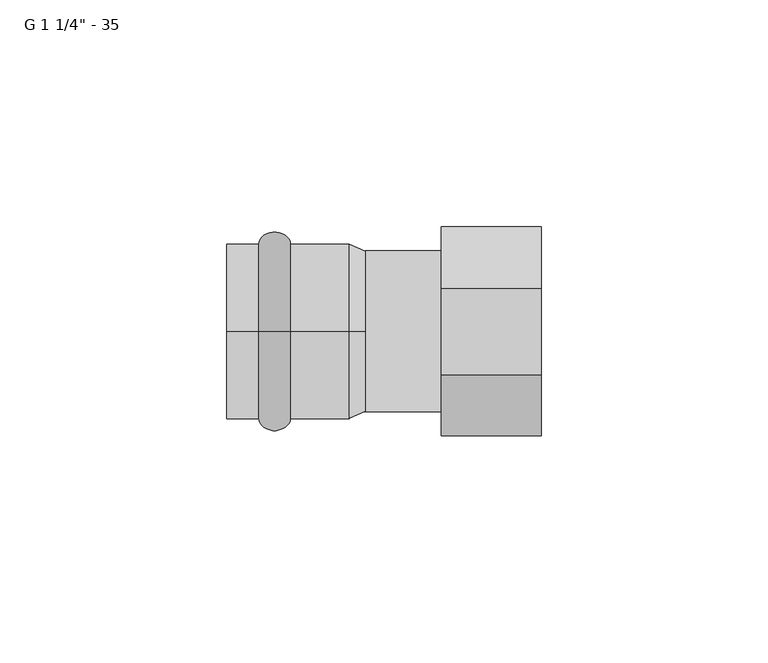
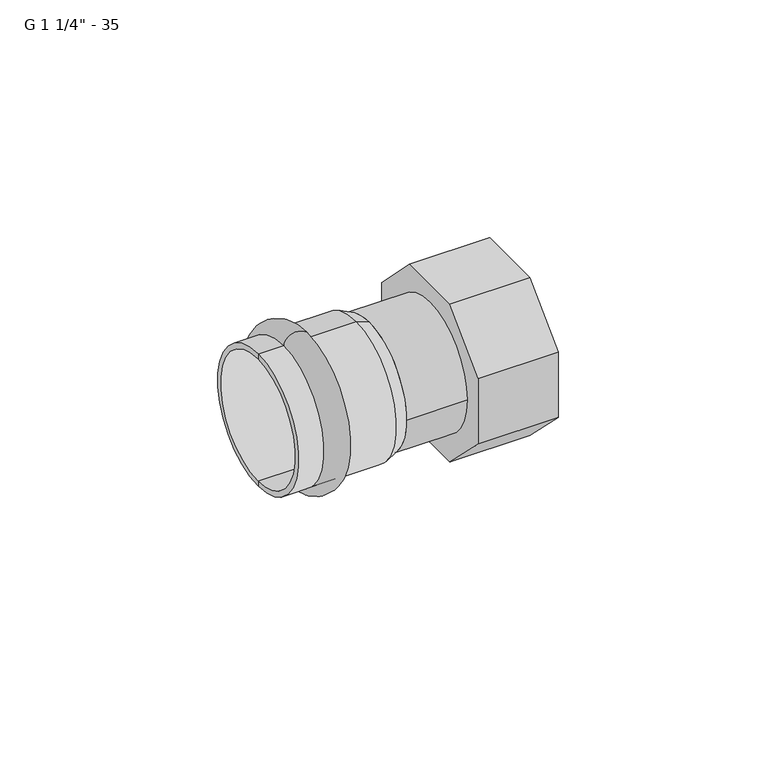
"""IFC4 building model written with IfcOpenShell, lengths in millimetres: pipe fitting geometry."""

from ifc_helpers import new_model, si_unit, point, frame, origin, origin_2d, place, context, project, spatial, polyline, circle_curve, ellipse_curve, trimmed, segment, composite_curve, outline, extrude, source, transform, mapped, element, save
from ifc_brep_helpers import plane_surface, cylinder_surface, revolved_surface, advanced_brep


def pipe_fitting_ef480b17(model_context):
    return source(origin(), model_context, "Body", "SolidModel", [
        advanced_brep(
        [(-20.0, 0.0, 19.25), (-20.0, 0.0, -19.25), (-13.0, 0.0, -19.25), (-13.0, 0.0, 19.25)],
        [
            (0, 1, circle_curve(frame((-20.0, 0.0, 0.0), z_axis=(-1.0, 0.0, 0.0), x_axis=(0.0, 0.0, -1.0)), 19.25)),
            (1, 2),
            (2, 3, circle_curve(frame((-13.0, 0.0, 0.0), z_axis=(1.0, 0.0, 0.0), x_axis=(0.0, 0.0, -1.0)), 19.25)),
            (3, 0),
            (1, 0, circle_curve(frame((-20.0, 0.0, 0.0), z_axis=(-1.0, 0.0, 0.0), x_axis=(0.0, 0.0, -1.0)), 19.25)),
            (3, 2, circle_curve(frame((-13.0, 0.0, 0.0), z_axis=(1.0, 0.0, 0.0), x_axis=(0.0, 0.0, -1.0)), 19.25)),
            (2, 1, ellipse_curve(frame((-16.5, 0.0, -19.25), z_axis=(0.0, 1.0, 0.0), x_axis=(-1.0, 0.0, 0.0)), 3.5, 2.75)),
            (0, 3, ellipse_curve(frame((-16.5, 0.0, 19.25), z_axis=(0.0, 1.0, 0.0), x_axis=(-1.0, 0.0, 0.0)), 3.5, 2.75)),
        ],
        [
            revolved_surface(polyline([(-13.0, 0.0, -19.25), (-20.0, 0.0, -19.25)]), (3.0, 0.0, 0.0), (1.0, 0.0, 0.0)),
            revolved_surface(trimmed(ellipse_curve(frame((-16.5, 0.0, -19.25), z_axis=(0.0, -1.0, 0.0), x_axis=(-1.0, 0.0, 0.0)), 3.5, 2.75), [point((-20.0, 0.0, -19.25))], [point((-13.0, 0.0, -19.25))], True, "CARTESIAN"), (3.0, 0.0, 0.0), (1.0, 0.0, 0.0)),
        ],
        [
            (0, [[1, 2, 3, 4]]),
            (0, [[5, -4, 6, -2]]),
            (1, [[-3, 7, -1, 8]]),
            (1, [[-6, -8, -5, -7]]),
        ],
    ),
        advanced_brep(
        [(3.5337785, 0.0, 17.75), (3.5337785, 0.0, -17.75), (0.0, 0.0, -19.25), (0.0, 0.0, 19.25), (-27.0, 0.0, 17.75), (-27.0, 0.0, -17.75), (-27.0, 0.0, 19.25), (-27.0, 0.0, -19.25)],
        [
            (0, 1, circle_curve(frame((3.5337785, 0.0, 0.0), z_axis=(-1.0, 0.0, 0.0), x_axis=(0.0, 0.0, -1.0)), 17.75)),
            (1, 2),
            (2, 3, circle_curve(frame((0.0, 0.0, 0.0), z_axis=(1.0, 0.0, 0.0), x_axis=(0.0, 0.0, -1.0)), 19.25)),
            (3, 0),
            (1, 0, circle_curve(frame((3.5337785, 0.0, 0.0), z_axis=(-1.0, 0.0, 0.0), x_axis=(0.0, 0.0, -1.0)), 17.75)),
            (3, 2, circle_curve(frame((0.0, 0.0, 0.0), z_axis=(1.0, 0.0, 0.0), x_axis=(0.0, 0.0, -1.0)), 19.25)),
            (4, 5, circle_curve(frame((-27.0, 0.0, 0.0), z_axis=(-1.0, 0.0, 0.0), x_axis=(0.0, 0.0, -1.0)), 17.75)),
            (5, 1),
            (0, 4),
            (5, 4, circle_curve(frame((-27.0, 0.0, 0.0), z_axis=(-1.0, 0.0, 0.0), x_axis=(0.0, 0.0, -1.0)), 17.75)),
            (6, 7, circle_curve(frame((-27.0, 0.0, 0.0), z_axis=(-1.0, 0.0, 0.0), x_axis=(0.0, 0.0, -1.0)), 19.25)),
            (7, 5),
            (4, 6),
            (7, 6, circle_curve(frame((-27.0, 0.0, 0.0), z_axis=(-1.0, 0.0, 0.0), x_axis=(0.0, 0.0, -1.0)), 19.25)),
            (2, 7),
            (6, 3),
        ],
        [
            revolved_surface(polyline([(0.0, 0.0, -19.25), (3.5337785, 0.0, -17.75)]), (3.0, 0.0, 0.0), (1.0, 0.0, 0.0)),
            revolved_surface(polyline([(3.5337785, 0.0, -17.75), (-27.0, 0.0, -17.75)]), (3.0, 0.0, 0.0), (1.0, 0.0, 0.0)),
            plane_surface(frame((-27.0, 0.0, 0.0), z_axis=(-1.0, 0.0, 0.0), x_axis=(0.0, 0.0, -1.0))),
            cylinder_surface(frame((3.0, 0.0, 0.0), z_axis=(1.0, 0.0, 0.0), x_axis=(0.0, 0.0, -1.0)), 19.25),
        ],
        [
            (0, [[1, 2, 3, 4]]),
            (0, [[5, -4, 6, -2]]),
            (1, [[7, 8, -1, 9]]),
            (1, [[10, -9, -5, -8]]),
            (2, [[11, 12, -7, 13]]),
            (2, [[14, -13, -10, -12]]),
            (3, [[-3, 15, -11, 16]]),
            (3, [[-6, -16, -14, -15]]),
        ],
    ),
        extrude(outline(composite_curve([segment(trimmed(circle_curve(origin_2d(), 17.75), [point((-17.75, 0.0))], [point((17.75, 0.0))], False, "CARTESIAN"), True, "CONTINUOUS"), segment(trimmed(circle_curve(origin_2d(), 17.75), [point((17.75, 0.0))], [point((-17.75, 0.0))], False, "CARTESIAN"), True, "CONTINUOUS")], self_intersect=False)), frame((3.5337785, 0.0, 0.0), z_axis=(1.0, 0.0, 0.0), x_axis=(0.0, 1.0, 0.0)), (0.0, 0.0, 1.0), 16.7),
        advanced_brep(
        [(42.2337785, -23.0, -9.5269119), (20.2337785, -23.0, -9.5269119), (20.2337785, -9.5269119, -23.0), (42.2337785, -9.5269119, -23.0), (20.2337785, 9.5269119, -23.0), (42.2337785, 9.5269119, -23.0), (42.2337785, 23.0, 9.5269119), (20.2337785, 23.0, 9.5269119), (20.2337785, 9.5269119, 23.0), (42.2337785, 9.5269119, 23.0), (20.2337785, -9.5269119, 23.0), (42.2337785, -9.5269119, 23.0), (20.2337785, 23.0, -9.5269119), (42.2337785, 23.0, -9.5269119), (20.2337785, -23.0, 9.5269119), (42.2337785, -23.0, 9.5269119), (26.2337785, -21.0, 0.0), (26.2337785, 21.0, 0.0), (26.2337785, -5.3847763, -13.0), (26.2337785, -13.0, -5.3847763), (26.2337785, -13.0, 5.3847763), (26.2337785, -5.3847763, 13.0), (26.2337785, 5.3847763, 13.0), (26.2337785, 13.0, 5.3847763), (26.2337785, 13.0, -5.3847763), (26.2337785, 5.3847763, -13.0), (42.2337785, 21.0, 0.0), (42.2337785, -21.0, 0.0), (20.2337785, -13.0, -5.3847763), (20.2337785, -5.3847763, -13.0), (20.2337785, 5.3847763, -13.0), (20.2337785, 13.0, -5.3847763), (20.2337785, 13.0, 5.3847763), (20.2337785, 5.3847763, 13.0), (20.2337785, -5.3847763, 13.0), (20.2337785, -13.0, 5.3847763)],
        [
            (0, 1),
            (1, 2),
            (2, 3),
            (3, 0),
            (2, 4),
            (4, 5),
            (5, 3),
            (6, 7),
            (7, 8),
            (8, 9),
            (9, 6),
            (8, 10),
            (10, 11),
            (11, 9),
            (4, 12),
            (12, 13),
            (13, 5),
            (10, 14),
            (14, 15),
            (15, 11),
            (16, 17, circle_curve(frame((26.2337785, 0.0, 0.0), z_axis=(1.0, 0.0, 0.0), x_axis=(0.0, 1.0, 0.0)), 21.0)),
            (17, 16, circle_curve(frame((26.2337785, 0.0, 0.0), z_axis=(1.0, 0.0, 0.0), x_axis=(0.0, 1.0, 0.0)), 21.0)),
            (18, 19),
            (19, 20),
            (20, 21),
            (21, 22),
            (22, 23),
            (23, 24),
            (24, 25),
            (25, 18),
            (17, 26),
            (26, 27, circle_curve(frame((42.2337785, 0.0, 0.0), z_axis=(1.0, 0.0, 0.0), x_axis=(0.0, 1.0, 0.0)), 21.0)),
            (27, 16),
            (27, 26, circle_curve(frame((42.2337785, 0.0, 0.0), z_axis=(1.0, 0.0, 0.0), x_axis=(0.0, 1.0, 0.0)), 21.0)),
            (6, 13),
            (12, 7),
            (15, 0),
            (1, 14),
            (28, 29),
            (29, 30),
            (30, 31),
            (31, 32),
            (32, 33),
            (33, 34),
            (34, 35),
            (35, 28),
            (28, 19),
            (18, 29),
            (25, 30),
            (32, 23),
            (22, 33),
            (21, 34),
            (24, 31),
            (20, 35),
        ],
        [
            plane_surface(frame((20.2337785, -23.0, -9.5269119), z_axis=(0.0, -0.7071067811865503, -0.7071067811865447), x_axis=(0.0, 0.7071067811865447, -0.7071067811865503))),
            plane_surface(frame((20.2337785, -9.5269119, -23.0), z_axis=(0.0, 0.0, -1.0), x_axis=(0.0, 1.0, 0.0))),
            plane_surface(frame((20.2337785, 23.0, 9.5269119), z_axis=(0.0, 0.7071067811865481, 0.707106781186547), x_axis=(0.0, -0.707106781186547, 0.7071067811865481))),
            plane_surface(frame((20.2337785, 9.5269119, 23.0), z_axis=(0.0, 0.0, 1.0), x_axis=(0.0, -1.0, 0.0))),
            plane_surface(frame((20.2337785, 9.5269119, -23.0), z_axis=(0.0, 0.7071067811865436, -0.7071067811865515), x_axis=(0.0, 0.7071067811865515, 0.7071067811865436))),
            plane_surface(frame((20.2337785, -9.5269119, 23.0), z_axis=(0.0, -0.7071067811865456, 0.7071067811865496), x_axis=(0.0, -0.7071067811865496, -0.7071067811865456))),
            plane_surface(frame((26.2337785, 21.0, 0.0), z_axis=(1.0, 0.0, 0.0), x_axis=(0.0, 0.0, -1.0))),
            revolved_surface(polyline([(42.2337785, 21.0, 0.0), (26.2337785, 21.0, 0.0)]), (26.2337785, 0.0, 0.0), (1.0, 0.0, 0.0)),
            plane_surface(frame((20.2337785, 23.0, -9.5269119), z_axis=(0.0, 1.0, 0.0), x_axis=(0.0, 0.0, 1.0))),
            plane_surface(frame((42.2337785, -23.0, 9.5269119), z_axis=(1.0, 0.0, 0.0), x_axis=(0.0, 0.0, -1.0))),
            plane_surface(frame((20.2337785, -13.0, 5.3847763), z_axis=(-1.0, 0.0, 0.0), x_axis=(0.0, 0.0, -1.0))),
            plane_surface(frame((20.2337785, -23.0, 9.5269119), z_axis=(0.0, -1.0, 0.0), x_axis=(0.0, 0.0, -1.0))),
            plane_surface(frame((42.2337785, -13.0, -5.3847763), z_axis=(0.0, 0.7071067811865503, 0.7071067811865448), x_axis=(0.0, 0.7071067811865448, -0.7071067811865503))),
            plane_surface(frame((42.2337785, -5.3847763, -13.0), z_axis=(0.0, 0.0, 1.0), x_axis=(0.0, 1.0, 0.0))),
            plane_surface(frame((42.2337785, 13.0, 5.3847763), z_axis=(0.0, -0.7071067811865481, -0.707106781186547), x_axis=(0.0, -0.707106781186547, 0.7071067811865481))),
            plane_surface(frame((42.2337785, 5.3847763, 13.0), z_axis=(0.0, 0.0, -1.0), x_axis=(0.0, -1.0, 0.0))),
            plane_surface(frame((42.2337785, 5.3847763, -13.0), z_axis=(0.0, -0.7071067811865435, 0.7071067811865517), x_axis=(0.0, 0.7071067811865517, 0.7071067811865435))),
            plane_surface(frame((42.2337785, -5.3847763, 13.0), z_axis=(0.0, 0.7071067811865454, -0.7071067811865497), x_axis=(0.0, -0.7071067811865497, -0.7071067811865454))),
            plane_surface(frame((42.2337785, 13.0, -5.3847763), z_axis=(0.0, -1.0, 0.0), x_axis=(0.0, 0.0, 1.0))),
            plane_surface(frame((42.2337785, -13.0, 5.3847763), z_axis=(0.0, 1.0, 0.0), x_axis=(0.0, 0.0, -1.0))),
        ],
        [
            (0, [[1, 2, 3, 4]]),
            (1, [[-3, 5, 6, 7]]),
            (2, [[8, 9, 10, 11]]),
            (3, [[-10, 12, 13, 14]]),
            (4, [[-6, 15, 16, 17]]),
            (5, [[-13, 18, 19, 20]]),
            (6, [[21, 22], [23, 24, 25, 26, 27, 28, 29, 30]]),
            (7, [[-22, 31, 32, 33]]),
            (7, [[-21, -33, 34, -31]]),
            (8, [[-8, 35, -16, 36]]),
            (9, [[-4, -7, -17, -35, -11, -14, -20, 37], [-32, -34]]),
            (10, [[-2, 38, -18, -12, -9, -36, -15, -5], [39, 40, 41, 42, 43, 44, 45, 46]]),
            (11, [[-1, -37, -19, -38]]),
            (12, [[-39, 47, -23, 48]]),
            (13, [[-40, -48, -30, 49]]),
            (14, [[-43, 50, -27, 51]]),
            (15, [[-44, -51, -26, 52]]),
            (16, [[-41, -49, -29, 53]]),
            (17, [[-45, -52, -25, 54]]),
            (18, [[-42, -53, -28, -50]]),
            (19, [[-46, -54, -24, -47]]),
        ],
    ),
    ])


if __name__ == "__main__":
    model = new_model("IFC4")
    model_context = context("Model", 3, world=origin())
    ifc_project = project(units=[si_unit("LENGTHUNIT", "METRE", prefix="MILLI")], contexts=[model_context])
    site = spatial("IfcSite", under=ifc_project)
    building = spatial("IfcBuilding", under=site)
    placement = place(None, origin())
    pipe_fitting_shape = pipe_fitting_ef480b17(model_context)
    element("IfcPipeFitting", 1, ObjectType="РЕХАУ_Пресс Муфта с накидной гайкой : G 1 1/4\" - 35", at=placement, inside=building, context=model_context, shape_type="MappedRepresentation", body=[
        mapped(pipe_fitting_shape, transform((0.0, 0.0, 0.0), x_axis=(1.0, 0.0, 0.0), y_axis=(0.0, 1.0, 0.0), z_axis=(0.0, 0.0, 1.0))),
    ])
    save(model, "model.ifc")
